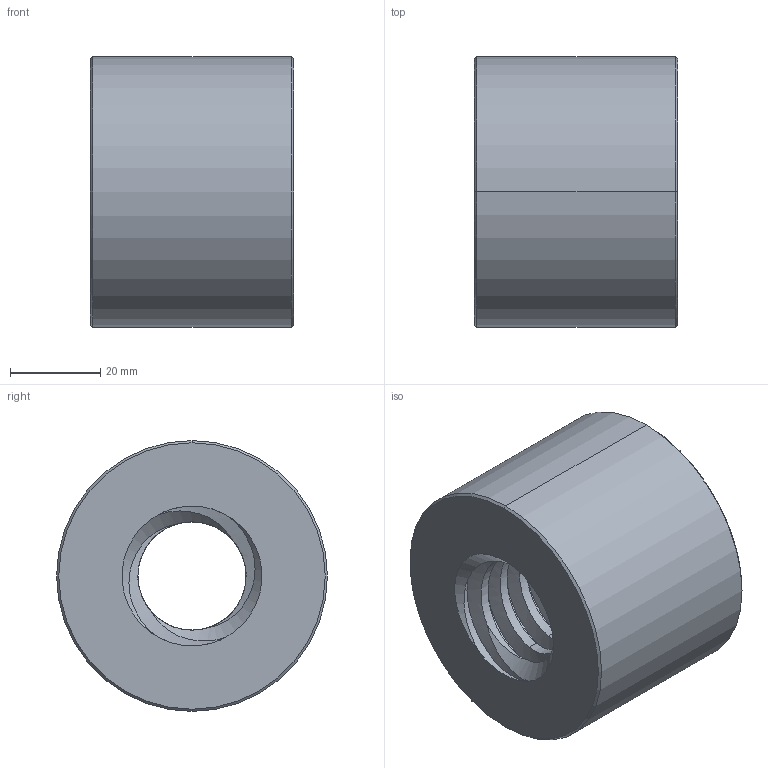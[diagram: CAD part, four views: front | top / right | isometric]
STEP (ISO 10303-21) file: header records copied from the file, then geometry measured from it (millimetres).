
FILE_DESCRIPTION((''),'2;1');
FILE_NAME('711-030-1105_PRT','2024-03-23T',('Brieden'),('ib-brieden'),'PRO/ENGINEER BY PARAMETRIC TECHNOLOGY CORPORATION, 2010160','PRO/ENGINEER BY PARAMETRIC TECHNOLOGY CORPORATION, 2010160','');
FILE_SCHEMA(('AUTOMOTIVE_DESIGN { 1 0 10303 214 1 1 1 1 }'));
Length unit declared in the file: millimetre
Products named in the file (1): 711-030-1105_PRT
Bounding box: 45 x 60 x 60 mm (x, y, z)
Volume: 99944.2 mm3; surface area: 19811 mm2
Topology: 1 solids, 1 shells, 37 faces, 89 edges, 54 vertices
Faces by surface type: cylinder 14, bspline 12, cone 9, plane 2
Entity records: 4295 total; most frequent: CARTESIAN_POINT 3494, ORIENTED_EDGE 178, DIRECTION 107, EDGE_CURVE 89, VERTEX_POINT 54, B_SPLINE_CURVE_WITH_KNOTS 49, AXIS2_PLACEMENT_3D 42, EDGE_LOOP 39
